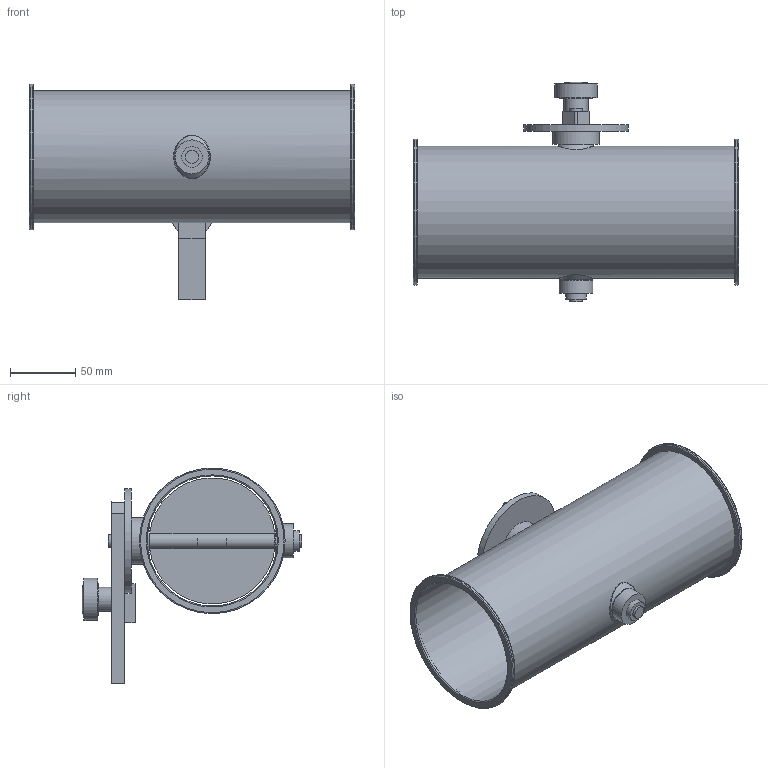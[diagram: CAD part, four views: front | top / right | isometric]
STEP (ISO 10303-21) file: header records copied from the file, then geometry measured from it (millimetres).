
FILE_DESCRIPTION(/* description */ (''),/* implementation_level */ '2;1');
FILE_NAME(/* name */ '',/* time_stamp */ '2023-03-10T15:14:03+01:00',/* author */ (''),/* organization */ (''),/* preprocessor_version */ 'ST-DEVELOPER v11',/* originating_system */ 'SIEMENS UGS NX 6.0',/* authorisation */ '');
FILE_SCHEMA (('CONFIG_CONTROL_DESIGN'));
Length unit declared in the file: millimetre
Products named in the file (1): d.ga8B38arqe
Bounding box: 250 x 169.17 x 166 mm (x, y, z)
Volume: 175952.5 mm3; surface area: 220785.5 mm2
Topology: 12 solids, 12 shells, 102 faces, 209 edges, 142 vertices
Faces by surface type: plane 48, cylinder 34, torus 10, cone 4, bspline 4, sphere 2
Full cylindrical faces by diameter (mm): 4.2 x1, 5 x1, 6 x1, 10 x5, 15 x3, 15.85 x2, 16.2 x2, 18.5 x1, 24 x2, 25 x1, 26 x1, 32.5 x1, 36 x1, 80 x1, 100 x1, 101.6 x1, 112 x2
Entity records: 3042 total; most frequent: CARTESIAN_POINT 1035, DIRECTION 414, ORIENTED_EDGE 284, AXIS2_PLACEMENT_3D 181, EDGE_LOOP 180, FACE_BOUND 150, EDGE_CURVE 142, VERTEX_POINT 120
